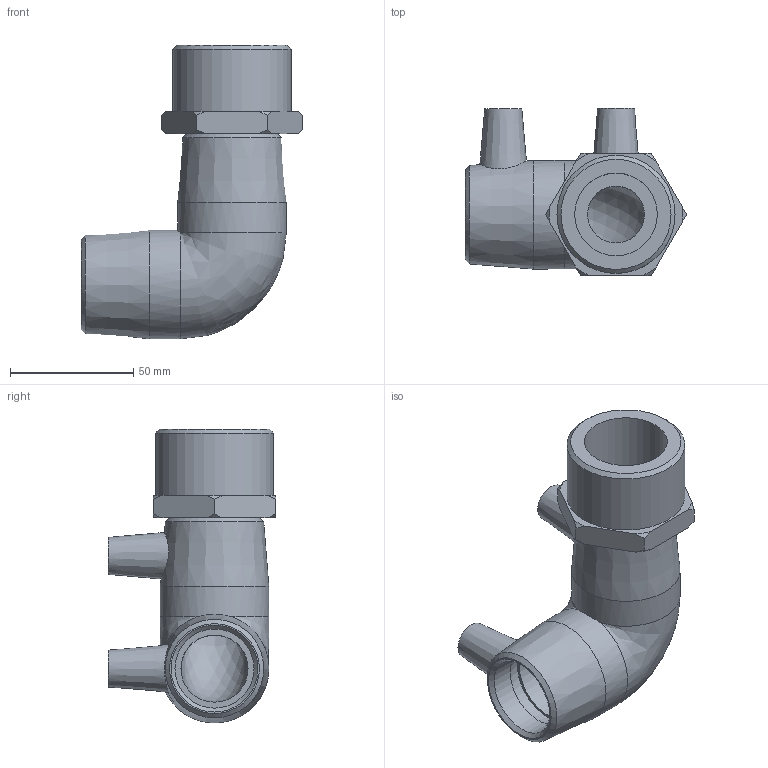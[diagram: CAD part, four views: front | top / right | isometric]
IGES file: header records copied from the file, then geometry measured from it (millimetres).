
Global section: file name: 492504032015.ipt; native system: Autodesk Inventor 2015; preprocessor: unknown; author: KIM; date: 20200202.122336; units: millimetre
Bounding box: 89.6 x 67.77 x 119 mm (x, y, z)
Volume: 141466.3 mm3; surface area: 42809.7 mm2
Topology: 1 solids, 2 shells, 59 faces, 143 edges, 96 vertices
Faces by surface type: plane 22, cone 19, revolution 10, cylinder 7, bspline 1
Full cylindrical faces by diameter (mm): 4 x2, 32 x2, 44 x2, 47.803 x1
